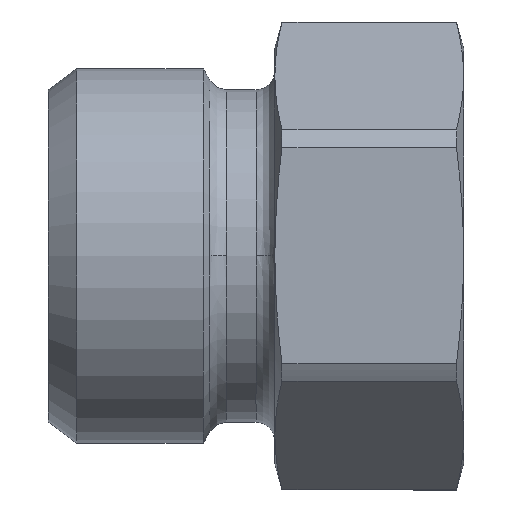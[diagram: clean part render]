
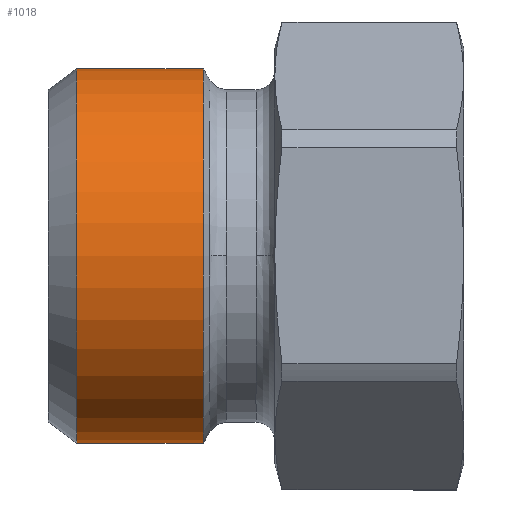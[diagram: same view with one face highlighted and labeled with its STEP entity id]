
A CAD part, top view. The second image highlights one B-rep face of the part: STEP entity #1018.
In plain terms, the highlighted cylindrical face has radius 9.925 mm (diameter 19.85 mm), a partial arc.
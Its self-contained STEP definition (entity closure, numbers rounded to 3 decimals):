
#368=CARTESIAN_POINT('',(0.,-9.925,15.507));
#369=VERTEX_POINT('',#368);
#370=CARTESIAN_POINT('',(0.,-9.925,8.8));
#371=VERTEX_POINT('',#370);
#372=CARTESIAN_POINT('',(0.,-9.925,15.507));
#373=DIRECTION('',(0.0,0.0,-1.0));
#374=VECTOR('',#373,6.708);
#375=LINE('',#372,#374);
#376=EDGE_CURVE('',#369,#371,#375,.T.);
#378=CARTESIAN_POINT('',(0.,9.925,15.507));
#379=VERTEX_POINT('',#378);
#387=CARTESIAN_POINT('',(0.,9.925,8.8));
#388=VERTEX_POINT('',#387);
#389=CARTESIAN_POINT('',(0.,9.925,8.8));
#390=DIRECTION('',(0.0,0.0,1.0));
#391=VECTOR('',#390,6.708);
#392=LINE('',#389,#391);
#393=EDGE_CURVE('',#388,#379,#392,.T.);
#894=CARTESIAN_POINT('',(0.,0.0,8.8));
#895=DIRECTION('',(0.0,0.0,-1.0));
#896=DIRECTION('',(0.0,-1.0,0.0));
#897=AXIS2_PLACEMENT_3D('',#894,#895,#896);
#898=CIRCLE('',#897,9.925);
#899=EDGE_CURVE('',#388,#371,#898,.T.);
#995=CARTESIAN_POINT('',(0.,0.,15.507));
#996=DIRECTION('',(0.0,0.0,-1.0));
#997=DIRECTION('',(0.0,-1.0,0.0));
#998=AXIS2_PLACEMENT_3D('',#995,#996,#997);
#999=CIRCLE('',#998,9.925);
#1000=EDGE_CURVE('',#379,#369,#999,.T.);
#1007=CARTESIAN_POINT('',(0.,0.,12.153));
#1008=DIRECTION('',(0.,0.,-1.0));
#1009=DIRECTION('',(0.0,-1.0,0.0));
#1010=AXIS2_PLACEMENT_3D('',#1007,#1008,#1009);
#1011=CYLINDRICAL_SURFACE('',#1010,9.925);
#1012=ORIENTED_EDGE('',*,*,#376,.T.);
#1013=ORIENTED_EDGE('',*,*,#899,.F.);
#1014=ORIENTED_EDGE('',*,*,#393,.T.);
#1015=ORIENTED_EDGE('',*,*,#1000,.T.);
#1016=EDGE_LOOP('',(#1012,#1013,#1014,#1015));
#1017=FACE_OUTER_BOUND('',#1016,.T.);
#1018=ADVANCED_FACE('',(#1017),#1011,.T.);
